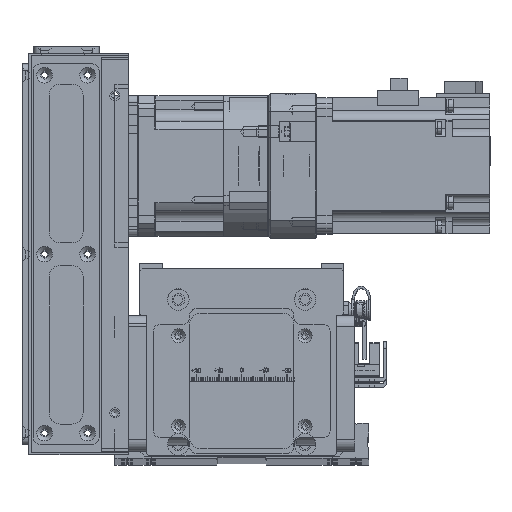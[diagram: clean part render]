
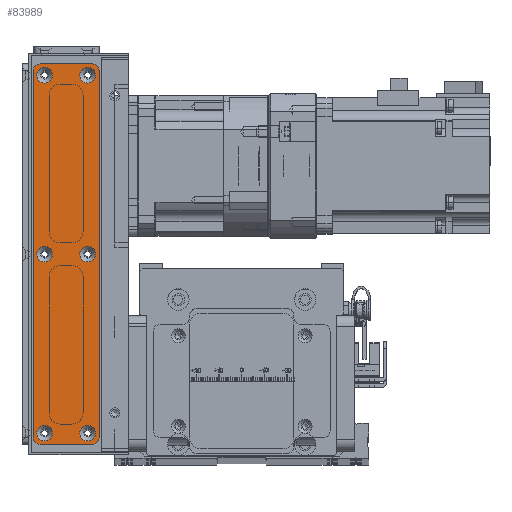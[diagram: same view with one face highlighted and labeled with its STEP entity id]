
A CAD part, top view. The second image highlights one B-rep face of the part: STEP entity #83989.
In plain terms, the highlighted planar face has unit normal (0, 0, 1).
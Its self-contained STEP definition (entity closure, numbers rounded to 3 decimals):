
#3145=FACE_BOUND('',#12581,.T.);
#3146=FACE_BOUND('',#12582,.T.);
#3147=FACE_BOUND('',#12583,.T.);
#3148=FACE_BOUND('',#12584,.T.);
#3149=FACE_BOUND('',#12585,.T.);
#3150=FACE_BOUND('',#12586,.T.);
#7503=FACE_OUTER_BOUND('',#12580,.T.);
#12580=EDGE_LOOP('',(#76555,#76556,#76557,#76558,#76559,#76560,#76561,#76562));
#12581=EDGE_LOOP('',(#76563));
#12582=EDGE_LOOP('',(#76564));
#12583=EDGE_LOOP('',(#76565));
#12584=EDGE_LOOP('',(#76566));
#12585=EDGE_LOOP('',(#76567));
#12586=EDGE_LOOP('',(#76568));
#14866=CIRCLE('',#91509,3.45);
#14869=CIRCLE('',#91514,3.45);
#14872=CIRCLE('',#91519,3.45);
#14875=CIRCLE('',#91524,3.45);
#14878=CIRCLE('',#91529,3.45);
#14881=CIRCLE('',#91534,3.45);
#14888=CIRCLE('',#91544,3.);
#14889=CIRCLE('',#91547,3.);
#14890=CIRCLE('',#91550,3.);
#14891=CIRCLE('',#91553,3.);
#23915=LINE('',#142584,#32948);
#23918=LINE('',#142592,#32951);
#23921=LINE('',#142600,#32954);
#23924=LINE('',#142607,#32957);
#32948=VECTOR('',#114407,10.);
#32951=VECTOR('',#114416,10.);
#32954=VECTOR('',#114425,10.);
#32957=VECTOR('',#114434,10.);
#40850=VERTEX_POINT('',#142500);
#40853=VERTEX_POINT('',#142510);
#40856=VERTEX_POINT('',#142520);
#40859=VERTEX_POINT('',#142530);
#40862=VERTEX_POINT('',#142540);
#40865=VERTEX_POINT('',#142550);
#40876=VERTEX_POINT('',#142577);
#40877=VERTEX_POINT('',#142579);
#40878=VERTEX_POINT('',#142583);
#40879=VERTEX_POINT('',#142587);
#40880=VERTEX_POINT('',#142591);
#40881=VERTEX_POINT('',#142595);
#40882=VERTEX_POINT('',#142599);
#40883=VERTEX_POINT('',#142603);
#52725=EDGE_CURVE('',#40850,#40850,#14866,.T.);
#52730=EDGE_CURVE('',#40853,#40853,#14869,.T.);
#52735=EDGE_CURVE('',#40856,#40856,#14872,.T.);
#52740=EDGE_CURVE('',#40859,#40859,#14875,.T.);
#52745=EDGE_CURVE('',#40862,#40862,#14878,.T.);
#52750=EDGE_CURVE('',#40865,#40865,#14881,.T.);
#52764=EDGE_CURVE('',#40877,#40876,#14888,.T.);
#52766=EDGE_CURVE('',#40878,#40877,#23915,.T.);
#52768=EDGE_CURVE('',#40879,#40878,#14889,.T.);
#52770=EDGE_CURVE('',#40880,#40879,#23918,.T.);
#52772=EDGE_CURVE('',#40881,#40880,#14890,.T.);
#52774=EDGE_CURVE('',#40882,#40881,#23921,.T.);
#52776=EDGE_CURVE('',#40883,#40882,#14891,.T.);
#52778=EDGE_CURVE('',#40876,#40883,#23924,.T.);
#76555=ORIENTED_EDGE('',*,*,#52778,.T.);
#76556=ORIENTED_EDGE('',*,*,#52776,.T.);
#76557=ORIENTED_EDGE('',*,*,#52774,.T.);
#76558=ORIENTED_EDGE('',*,*,#52772,.T.);
#76559=ORIENTED_EDGE('',*,*,#52770,.T.);
#76560=ORIENTED_EDGE('',*,*,#52768,.T.);
#76561=ORIENTED_EDGE('',*,*,#52766,.T.);
#76562=ORIENTED_EDGE('',*,*,#52764,.T.);
#76563=ORIENTED_EDGE('',*,*,#52725,.T.);
#76564=ORIENTED_EDGE('',*,*,#52730,.T.);
#76565=ORIENTED_EDGE('',*,*,#52735,.T.);
#76566=ORIENTED_EDGE('',*,*,#52740,.T.);
#76567=ORIENTED_EDGE('',*,*,#52745,.T.);
#76568=ORIENTED_EDGE('',*,*,#52750,.T.);
#79636=PLANE('',#91555);
#83989=ADVANCED_FACE('',(#7503,#3145,#3146,#3147,#3148,#3149,#3150),#79636,
 .T.);
#91509=AXIS2_PLACEMENT_3D('',#142501,#114315,#114316);
#91514=AXIS2_PLACEMENT_3D('',#142511,#114327,#114328);
#91519=AXIS2_PLACEMENT_3D('',#142521,#114339,#114340);
#91524=AXIS2_PLACEMENT_3D('',#142531,#114351,#114352);
#91529=AXIS2_PLACEMENT_3D('',#142541,#114363,#114364);
#91534=AXIS2_PLACEMENT_3D('',#142551,#114375,#114376);
#91544=AXIS2_PLACEMENT_3D('',#142580,#114402,#114403);
#91547=AXIS2_PLACEMENT_3D('',#142588,#114411,#114412);
#91550=AXIS2_PLACEMENT_3D('',#142596,#114420,#114421);
#91553=AXIS2_PLACEMENT_3D('',#142604,#114429,#114430);
#91555=AXIS2_PLACEMENT_3D('',#142608,#114435,#114436);
#114315=DIRECTION('center_axis',(0.,0.,-1.));
#114316=DIRECTION('ref_axis',(1.,0.,0.));
#114327=DIRECTION('center_axis',(0.,0.,-1.));
#114328=DIRECTION('ref_axis',(1.,0.,0.));
#114339=DIRECTION('center_axis',(0.,0.,-1.));
#114340=DIRECTION('ref_axis',(1.,0.,0.));
#114351=DIRECTION('center_axis',(0.,0.,-1.));
#114352=DIRECTION('ref_axis',(1.,0.,0.));
#114363=DIRECTION('center_axis',(0.,0.,-1.));
#114364=DIRECTION('ref_axis',(1.,0.,0.));
#114375=DIRECTION('center_axis',(0.,0.,-1.));
#114376=DIRECTION('ref_axis',(1.,0.,0.));
#114402=DIRECTION('center_axis',(0.,0.,1.));
#114403=DIRECTION('ref_axis',(-1.,0.,0.));
#114407=DIRECTION('',(0.,1.,0.));
#114411=DIRECTION('center_axis',(0.,0.,1.));
#114412=DIRECTION('ref_axis',(0.,1.,0.));
#114416=DIRECTION('',(1.,0.,0.));
#114420=DIRECTION('center_axis',(0.,0.,1.));
#114421=DIRECTION('ref_axis',(1.,0.,0.));
#114425=DIRECTION('',(0.,-1.,0.));
#114429=DIRECTION('center_axis',(0.,0.,1.));
#114430=DIRECTION('ref_axis',(0.,-1.,0.));
#114434=DIRECTION('',(-1.,0.,0.));
#114435=DIRECTION('center_axis',(0.,0.,1.));
#114436=DIRECTION('ref_axis',(1.,0.,0.));
#142500=CARTESIAN_POINT('',(-3.45,9.5,1.5));
#142501=CARTESIAN_POINT('Origin',(0.,9.5,1.5));
#142510=CARTESIAN_POINT('',(75.55,-9.5,1.5));
#142511=CARTESIAN_POINT('Origin',(79.,-9.5,1.5));
#142520=CARTESIAN_POINT('',(-82.45,9.5,1.5));
#142521=CARTESIAN_POINT('Origin',(-79.,9.5,1.5));
#142530=CARTESIAN_POINT('',(75.55,9.5,1.5));
#142531=CARTESIAN_POINT('Origin',(79.,9.5,1.5));
#142540=CARTESIAN_POINT('',(-82.45,-9.5,1.5));
#142541=CARTESIAN_POINT('Origin',(-79.,-9.5,1.5));
#142550=CARTESIAN_POINT('',(-3.45,-9.5,1.5));
#142551=CARTESIAN_POINT('Origin',(0.,-9.5,1.5));
#142577=CARTESIAN_POINT('',(81.,14.5,1.5));
#142579=CARTESIAN_POINT('',(84.,11.5,1.5));
#142580=CARTESIAN_POINT('Origin',(81.,11.5,1.5));
#142583=CARTESIAN_POINT('',(84.,-11.5,1.5));
#142584=CARTESIAN_POINT('',(84.,11.5,1.5));
#142587=CARTESIAN_POINT('',(81.,-14.5,1.5));
#142588=CARTESIAN_POINT('Origin',(81.,-11.5,1.5));
#142591=CARTESIAN_POINT('',(-81.,-14.5,1.5));
#142592=CARTESIAN_POINT('',(81.,-14.5,1.5));
#142595=CARTESIAN_POINT('',(-84.,-11.5,1.5));
#142596=CARTESIAN_POINT('Origin',(-81.,-11.5,1.5));
#142599=CARTESIAN_POINT('',(-84.,11.5,1.5));
#142600=CARTESIAN_POINT('',(-84.,-11.5,1.5));
#142603=CARTESIAN_POINT('',(-81.,14.5,1.5));
#142604=CARTESIAN_POINT('Origin',(-81.,11.5,1.5));
#142607=CARTESIAN_POINT('',(-81.,14.5,1.5));
#142608=CARTESIAN_POINT('Origin',(0.,0.,
1.5));
